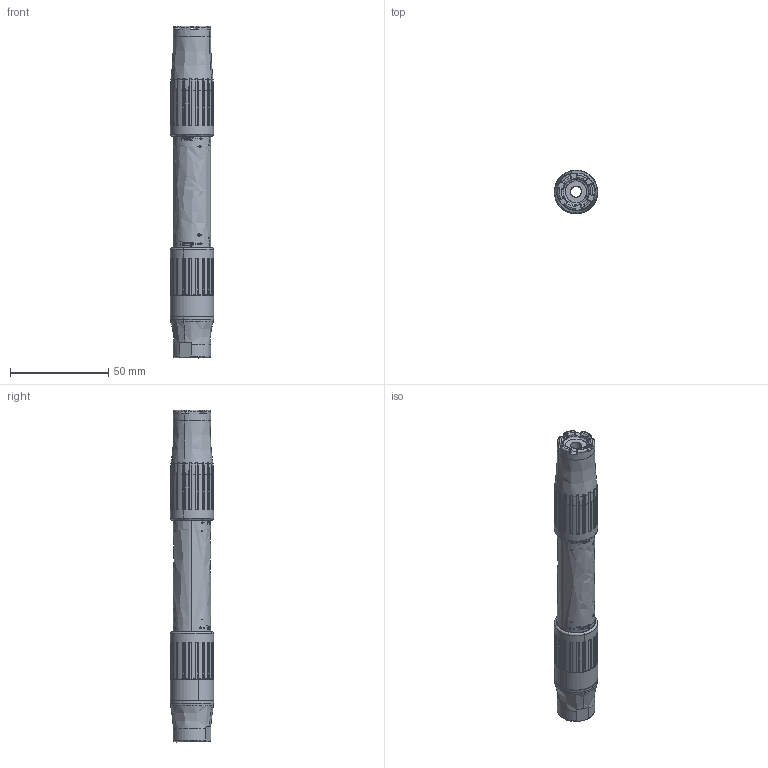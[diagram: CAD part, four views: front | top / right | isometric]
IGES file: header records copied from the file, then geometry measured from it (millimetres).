
Start section: SolidWorks IGES file using analytic representation for surfaces
Global section: file name: G:\Silvent\Ritningar\Övrigt\IGES\Silvent F 1.IGS; native system: SolidWorks 2011; preprocessor: SolidWorks 2011; author: silvrati; date: 111108.081935; units: millimetre
Bounding box: 22 x 22 x 168.8 mm (x, y, z)
Surface area: 14436.5 mm2 (no closed solid volume)
Topology: 0 solids, 0 shells, 829 faces, 6441 edges, 6428 vertices
Faces by surface type: bspline 603, revolution 226
